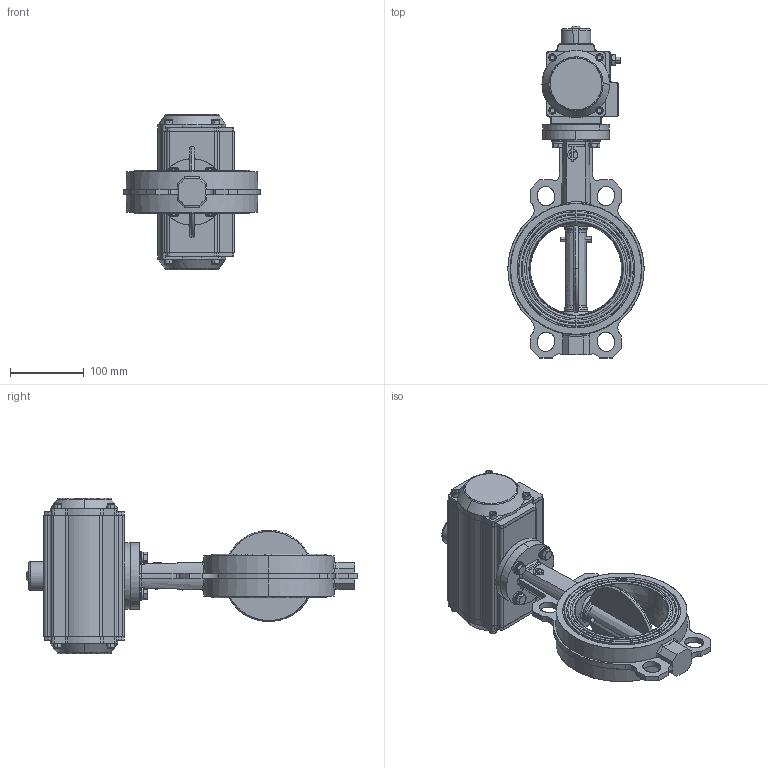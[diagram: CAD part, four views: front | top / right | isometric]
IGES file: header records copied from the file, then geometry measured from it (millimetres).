
Start section: SolidWorks IGES file using analytic representation for surfaces
Global section: file name: H:\BE FABRICATION\BE SERIE\VP\VP SERIE\F072 VPG\plan 3D\VPG-N03\WAFER\DN125\VPG444X-N03XX0125.igs; native system: SolidWorks 2020; preprocessor: SolidWorks 2020; author: k.gigout; date: 220627.174125; units: millimetre
Bounding box: 184.29 x 449.05 x 210 mm (x, y, z)
Surface area: 308966.4 mm2 (no closed solid volume)
Topology: 0 solids, 0 shells, 738 faces, 20195 edges, 20189 vertices
Faces by surface type: bspline 460, revolution 278
